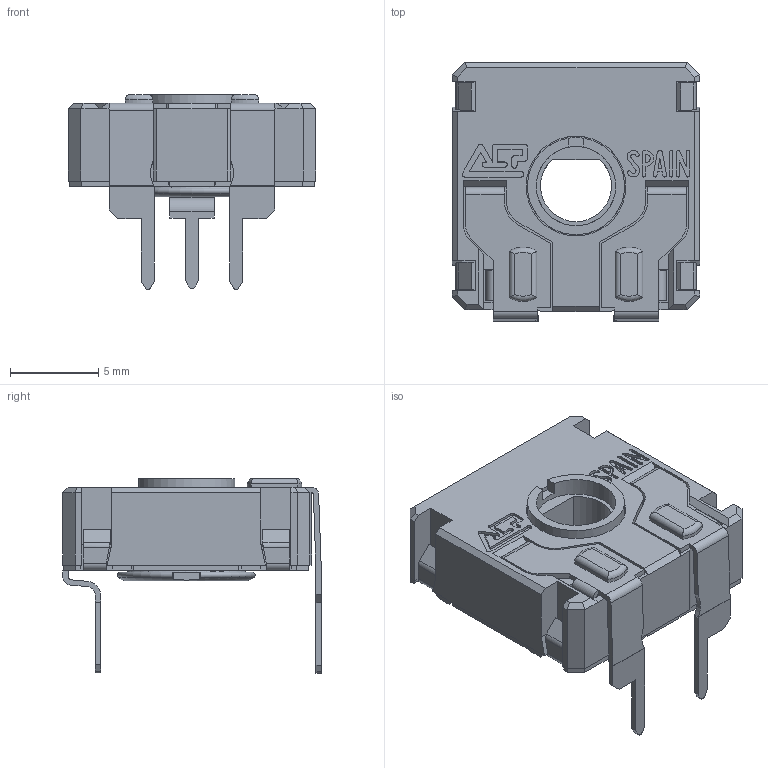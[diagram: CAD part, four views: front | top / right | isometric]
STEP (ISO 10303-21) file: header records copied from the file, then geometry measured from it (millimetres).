
FILE_DESCRIPTION(/* description */ (''),/* implementation_level */ '2;1');
FILE_NAME(/* name */ 'C:\Users\CEM\Desktop\ENVIAR\TRANSICION 3D CATALOGOS\CS14FV12,5x5.stp',/* time_stamp */ '2025-10-24T17:46:59+02:00',/* author */ ('CEM'),/* organization */ (''),/* preprocessor_version */ 'ST-DEVELOPER v17',/* originating_system */ 'Autodesk Inventor 2018',/* authorisation */ '');
FILE_SCHEMA (('AUTOMOTIVE_DESIGN { 1 0 10303 214 3 1 1 }'));
Length unit declared in the file: millimetre
Products named in the file (1): CS14FV12,5x5
Bounding box: 14 x 14.65 x 11.04 mm (x, y, z)
Volume: 549.7 mm3; surface area: 1612.8 mm2
Topology: 1 solids, 3 shells, 720 faces, 2024 edges, 1305 vertices
Faces by surface type: plane 538, cylinder 146, cone 15, bspline 12, torus 9
Full cylindrical faces by diameter (mm): 4.5 x1, 5.5 x1, 5.65 x1, 6.87 x1
Entity records: 24094 total; most frequent: CARTESIAN_POINT 4519, ORIENTED_EDGE 4048, DIRECTION 3770, EDGE_CURVE 2024, LINE 1578, VECTOR 1578, VERTEX_POINT 1305, AXIS2_PLACEMENT_3D 1096
